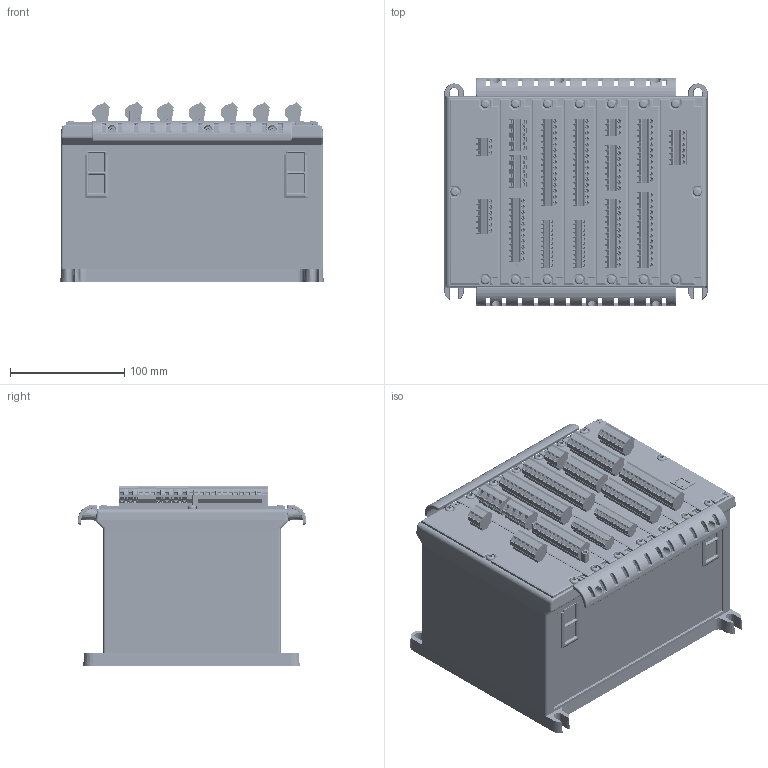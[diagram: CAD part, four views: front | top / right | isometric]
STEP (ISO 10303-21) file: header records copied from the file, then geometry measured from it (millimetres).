
FILE_DESCRIPTION(/* description */ ('Matr2'),/* implementation_level */ '2;1');
FILE_NAME(/* name */ 'C:\WF\Designs\421704 ML300\Rack R7.1 Complete\Rack R7.1 Complete - sales - STP.stp',/* time_stamp */ '2015-04-15T14:39:02+02:00',/* author */ ('jlc'),/* organization */ (''),/* preprocessor_version */ 'ST-DEVELOPER v15.2',/* originating_system */ 'Autodesk Inventor 2014',/* authorisation */ 'Description2');
FILE_SCHEMA (('AUTOMOTIVE_DESIGN { 1 0 10303 214 3 1 1 }'));
Products named in the file (16): Rack R7.1 - sales; frame_f-rj45_conn; frame_f-rj45_conn_red; EM-5.08-06P 45deg black; EM-5.08-03P 45deg black; EM-5.08-11P 45deg black W-F minus terminal 3,6,9; EM-7.62-04P 45deg black; EM-3.81-11P 45deg black; EM-5.08-15P 45deg black minus terminal 4,8,12; EM-5.08-12P 45deg black; EM-5.08-08P 45deg black; EM-5.08-13P 45deg black; EM-5.08-11P 45deg black minus terminal 3,6,9; rj45_mfj13t45l-kf06b3; wire_support; Rack R7.1 Complete - sales
Bounding box: 230.11 x 199.89 x 156.96 mm (x, y, z)
Volume: 5082005.9 mm3; surface area: 304480.7 mm2
Topology: 36 solids, 40 shells, 13263 faces, 35978 edges, 23533 vertices
Faces by surface type: plane 8461, cylinder 3421, bspline 1077, cone 184, torus 72, sphere 48
Full cylindrical faces by diameter (mm): 0.343 x2, 0.457 x11, 0.9 x8, 1 x4, 1.05 x22, 1.4 x103, 1.6 x8, 1.7 x2, 1.75 x2, 2.1 x20, 2.3 x16, 2.5 x2, 2.6 x8, 2.8 x92, 2.837 x22, 3 x30, 3.2 x2, 3.3 x16, 3.783 x103, 3.8 x2, 3.9 x10, 4 x103, 7.6 x16, 8 x4
Entity records: 329628 total; most frequent: CARTESIAN_POINT 107699, ORIENTED_EDGE 46575, DIRECTION 44705, EDGE_CURVE 23290, LINE 15993, VECTOR 15993, VERTEX_POINT 15503, AXIS2_PLACEMENT_3D 14356
